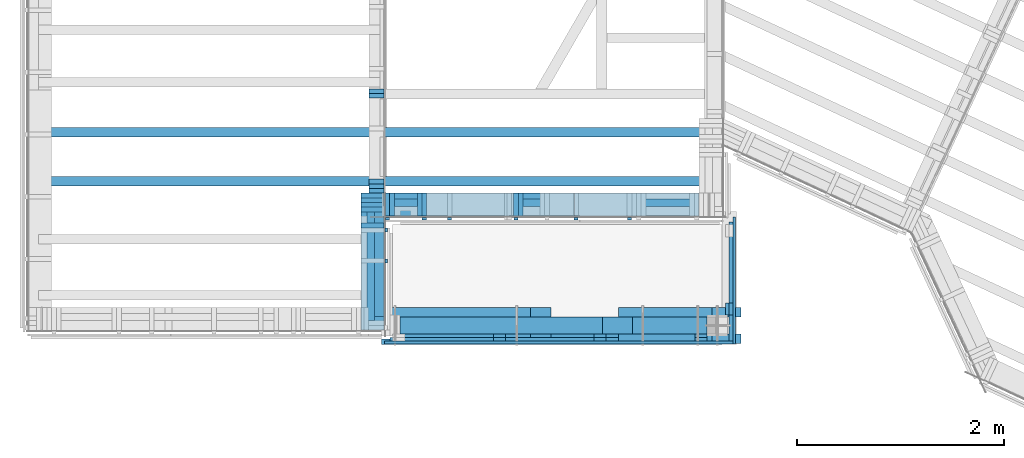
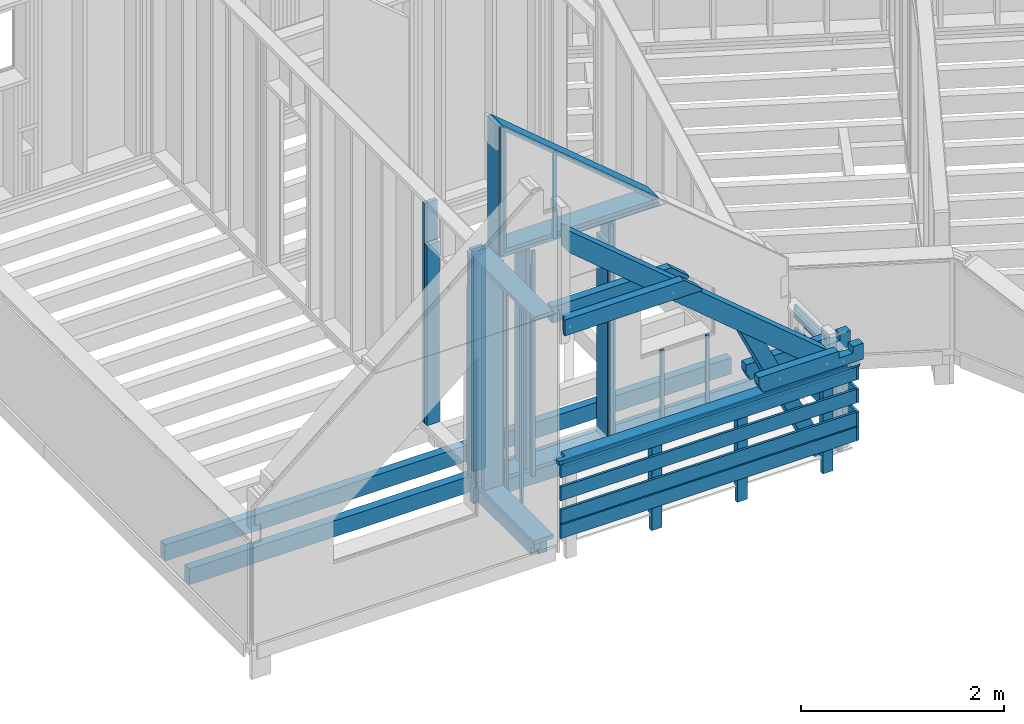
# One storey, part 4 of 24: 55 members, 2 beams.
"""IFC2X3 building model written with IfcOpenShell, lengths in metres."""

from ifc_helpers import new_model, si_unit, direction, frame, origin_with_axes, place, context, subcontext, project, spatial, faceted_brep, material, element, save


model = new_model("IFC2X3")

# Units and contexts
model_context = context("Model", 3, precision=1e-06, world=origin_with_axes(), true_north=direction((0.0, 1.0, 0.0)))
body_context = subcontext(model_context, "Body", "Model", "MODEL_VIEW")
ifc_project = project(units=[si_unit("LENGTHUNIT", "METRE"), si_unit("AREAUNIT", "SQUARE_METRE"), si_unit("VOLUMEUNIT", "CUBIC_METRE"), si_unit("PLANEANGLEUNIT", "RADIAN")], contexts=[model_context])

# Site, building, storey
site_placement = place(None, origin_with_axes())
site = spatial("IfcSite", under=ifc_project, at=site_placement, CompositionType="ELEMENT")
building_placement = place(site_placement, origin_with_axes())
building = spatial("IfcBuilding", under=site, at=building_placement, Name="Building 1", CompositionType="ELEMENT")
storey_placement = place(building_placement, origin_with_axes())
storey = spatial("IfcBuildingStorey", under=building, at=storey_placement, Name="Premier Etage", CompositionType="ELEMENT", Elevation=0.0)

# Members
ifc_material_1 = material(Name="NH II")
member_1_placement = place(storey_placement, frame((6.8155, -0.121, 3.0045), z_axis=(0.0, 0.0, 1.0), x_axis=(0.0, 1.0, 0.0)))
element("IfcMember", 1, at=member_1_placement, inside=storey, material=ifc_material_1, Name="Balustre horizontale", context=body_context, shape_type="Brep", body=[
    faceted_brep([(1.2258281, -0.0135, 0.0825), (0.0, -0.0135, 0.0825), (0.0, -0.0135, -0.0825), (1.2258281, -0.0135, -0.0825), (1.2258281, 0.0135, 0.0825), (0.0, 0.0135, 0.0825), (1.2258281, 0.0135, -0.0825), (0.0, 0.0135, -0.0825)], [[[0, 1, 2, 3]], [[4, 5, 1, 0]], [[6, 7, 5, 4]], [[3, 2, 7, 6]], [[3, 6, 4, 0]], [[7, 2, 1, 5]]]),
])
ifc_material_2 = material(Name="Epicéa C24")
member_2_placement = place(storey_placement, frame((5.2056087, 1.2228281, 5.6029713), z_axis=(0.0, -1.0, 0.0), x_axis=(-1.0, 0.0, 0.0)))
element("IfcMember", 2, at=member_2_placement, inside=storey, material=ifc_material_2, Name="Montant", context=body_context, shape_type="Brep", body=[
    faceted_brep([(0.0, -0.0225, -0.11), (0.0, -0.0225, 0.11), (0.0, 0.0225, 0.11), (0.0, 0.0225, -0.11), (1.7576088, -0.0225, 0.11), (1.7576088, 0.0225, 0.11), (1.7576088, -0.0225, -0.11), (1.7576088, 0.0225, -0.11)], [[[0, 1, 2, 3]], [[2, 1, 4, 5]], [[1, 0, 6, 4]], [[0, 3, 7, 6]], [[3, 2, 5, 7]], [[7, 5, 4, 6]]]),
])
member_3_placement = place(storey_placement, frame((3.4785373, 1.2228281, 7.104028), z_axis=(0.0, -1.0, 0.0), x_axis=(0.7660444, 0.0, -0.6427876)))
element("IfcMember", 3, at=member_3_placement, inside=storey, material=ifc_material_2, Name="Montant", context=body_context, shape_type="Brep", body=[
    faceted_brep([(0.0, 0.0225, -0.11), (0.0377595, -0.0225, -0.11), (0.0377595, -0.0225, 0.11), (0.0, 0.0225, 0.11), (2.2734114, -0.0225, -0.11), (2.2734114, -0.0225, 0.11), (2.3270404, 0.0225, -0.11), (2.3270404, 0.0225, 0.11)], [[[0, 1, 2, 3]], [[2, 1, 4, 5]], [[1, 0, 6, 4]], [[7, 5, 4, 6]], [[3, 2, 5, 7]], [[0, 3, 7, 6]]]),
])
member_4_placement = place(storey_placement, frame((5.8050389, 1.0878281, 3.813), z_axis=(0.0, 1.0, 0.0), x_axis=(0.0, 0.0, -1.0)))
element("IfcMember", 4, at=member_4_placement, inside=storey, material=ifc_material_2, Name="latte 27/40", context=body_context, shape_type="Brep", body=[
    faceted_brep([(1.003, 0.02, -0.012), (1.003, 0.02, 0.012), (1.003, -0.02, 0.012), (1.003, -0.02, -0.012), (0.0, 0.02, 0.012), (0.0, 0.02, -0.012), (0.0, -0.02, -0.012), (0.0, -0.02, 0.012)], [[[0, 1, 2, 3]], [[4, 5, 6, 7]], [[3, 6, 5, 0]], [[2, 7, 6, 3]], [[1, 4, 7, 2]], [[0, 5, 4, 1]]]),
])

# Beam
beam_1_placement = place(storey_placement, frame((5.0472814, 0.182, 5.4324058), z_axis=(0.0, 0.0, 1.0), x_axis=(-1.0, 0.0, 0.0)))
element("IfcBeam", 5, at=beam_1_placement, inside=storey, material=ifc_material_1, Name="Blochet", context=body_context, shape_type="Brep", body=[
    faceted_brep([(1.5532814, 0.046, -0.096), (1.5532814, 0.046, 0.096), (1.5532814, -0.046, 0.096), (1.5532814, -0.046, -0.096), (0.1988167, 0.046, 0.096), (0.1988167, -0.046, 0.096), (0.0, 0.046, -0.096), (0.0, 0.046, -0.070827), (0.0, -0.046, -0.096), (0.0, -0.046, -0.070827)], [[[0, 1, 2, 3]], [[2, 1, 4, 5]], [[1, 0, 6, 7, 4]], [[8, 9, 7, 6]], [[7, 9, 5, 4]], [[3, 2, 5, 9, 8]], [[0, 3, 8, 6]]]),
])

# Members
member_5_placement = place(storey_placement, frame((6.476, 1.2228281, 2.8725), z_axis=(0.0, -1.0, 0.0), x_axis=(-1.0, 0.0, 0.0)))
element("IfcMember", 6, at=member_5_placement, inside=storey, material=ifc_material_2, Name="Montant", context=body_context, shape_type="Brep", body=[
    faceted_brep([(3.028, 0.0225, 0.11), (0.0, 0.0225, 0.11), (0.0, -0.0225, 0.11), (3.028, -0.0225, 0.11), (0.0, -0.0225, -0.11), (3.028, -0.0225, -0.11), (0.0, 0.0225, -0.11), (3.028, 0.0225, -0.11)], [[[0, 1, 2, 3]], [[4, 5, 3, 2]], [[6, 4, 2, 1]], [[5, 7, 0, 3]], [[7, 5, 4, 6]], [[0, 7, 6, 1]]]),
])
member_6_placement = place(storey_placement, frame((6.4885307, 0.056, 2.7754038), z_axis=(0.9063078, 0.0, 0.4226183), x_axis=(-0.4226183, 0.0, 0.9063078)))
element("IfcMember", 7, at=member_6_placement, inside=storey, material=ifc_material_1, Name="Aisselier", context=body_context, shape_type="Brep", body=[
    faceted_brep([(0.0, 0.08, 0.0700306), (0.0, -0.08, 0.0700306), (0.0213794, -0.08, 0.08), (0.0213794, 0.08, 0.08), (0.0699604, -0.08, -0.08), (2.0609966, -0.08, -0.08), (1.7178755, -0.08, 0.08), (0.0699604, 0.08, -0.08), (1.7178755, 0.08, 0.08), (2.0609966, 0.08, -0.08)], [[[0, 1, 2, 3]], [[2, 1, 4, 5, 6]], [[1, 0, 7, 4]], [[8, 6, 5, 9]], [[3, 2, 6, 8]], [[0, 3, 8, 9, 7]], [[4, 7, 9, 5]]]),
])
member_7_placement = place(storey_placement, frame((5.2903666, 1.0878281, 3.813), z_axis=(0.0, 1.0, 0.0), x_axis=(0.0, 0.0, -1.0)))
element("IfcMember", 8, at=member_7_placement, inside=storey, material=ifc_material_2, Name="latte 27/40", context=body_context, shape_type="Brep", body=[
    faceted_brep([(1.003, 0.02, -0.012), (1.003, 0.02, 0.012), (1.003, -0.02, 0.012), (1.003, -0.02, -0.012), (0.0, 0.02, 0.012), (0.0, 0.02, -0.012), (0.0, -0.02, -0.012), (0.0, -0.02, 0.012)], [[[0, 1, 2, 3]], [[4, 5, 6, 7]], [[3, 6, 5, 0]], [[2, 7, 6, 3]], [[1, 4, 7, 2]], [[0, 5, 4, 1]]]),
])
for number, where, z_axis, x_axis, name in (
    (9, (3.8266497, 1.0878281, 5.5204713), (0.0, -1.0, 0.0), (0.0, 0.0, -1.0), "latte 27/40"),
    (10, (4.7116497, 1.0878281, 5.5204713), (0.0, -1.0, 0.0), (0.0, 0.0, -1.0), "latte 27/40"),
):
    element("IfcMember", number, at=place(storey_placement, frame(where, z_axis=z_axis, x_axis=x_axis)), inside=storey, material=ifc_material_2, Name=name, context=body_context, shape_type="Brep", body=[
        faceted_brep([(2.7104713, 0.02, -0.012), (2.7104713, 0.02, 0.012), (2.7104713, -0.02, 0.012), (2.7104713, -0.02, -0.012), (0.0, 0.02, 0.012), (0.0, 0.02, -0.012), (0.0, -0.02, -0.012), (0.0, -0.02, 0.012)], [[[0, 1, 2, 3]], [[4, 5, 6, 7]], [[3, 6, 5, 0]], [[2, 7, 6, 3]], [[1, 4, 7, 2]], [[0, 5, 4, 1]]]),
    ])
member_8_placement = place(storey_placement, frame((3.326, 1.3103281, 5.5354713), z_axis=(-1.0, 0.0, 0.0), x_axis=(0.0, 0.0, -1.0)))
element("IfcMember", 11, at=member_8_placement, inside=storey, material=ifc_material_2, Name="Montant", context=body_context, shape_type="Brep", body=[
    faceted_brep([(2.6404713, -0.0225, -0.11), (2.6404713, 0.0225, -0.11), (2.6404713, 0.0225, 0.11), (2.6404713, -0.0225, 0.11), (0.0, -0.0225, 0.11), (0.0, -0.0225, -0.11), (0.0, 0.0225, -0.11), (0.0, 0.0225, 0.11)], [[[0, 1, 2, 3]], [[0, 3, 4, 5]], [[1, 0, 5, 6]], [[2, 1, 6, 7]], [[3, 2, 7, 4]], [[4, 7, 6, 5]]]),
])
member_9_placement = place(storey_placement, frame((3.444, -0.1075, 3.7345), z_axis=(0.0, 0.0, 1.0), x_axis=(1.0, 0.0, 0.0)))
element("IfcMember", 12, at=member_9_placement, inside=storey, material=ifc_material_1, Name="Balustre horizontale", context=body_context, shape_type="Brep", body=[
    faceted_brep([(3.385, 0.0135, -0.0825), (0.0, 0.0135, -0.0825), (0.0, 0.0135, 0.0825), (3.385, 0.0135, 0.0825), (0.0, -0.0135, 0.0825), (3.385, -0.0135, 0.0825), (0.0, -0.0135, -0.0825), (3.385, -0.0135, -0.0825)], [[[0, 1, 2, 3]], [[3, 2, 4, 5]], [[5, 4, 6, 7]], [[7, 6, 1, 0]], [[7, 0, 3, 5]], [[1, 6, 4, 2]]]),
])
member_10_placement = place(storey_placement, frame((3.416, -0.059, 3.8395), z_axis=(0.0, -1.0, 0.0), x_axis=(1.0, 0.0, 0.0)))
element("IfcMember", 13, at=member_10_placement, inside=storey, material=ifc_material_1, Name="Main courante", context=body_context, shape_type="Brep", body=[
    faceted_brep([(0.0, 0.0225, 0.014), (0.0, -0.0225, 0.014), (0.0, -0.0225, 0.07), (0.0, 0.0225, 0.07), (3.421, -0.0225, 0.07), (3.421, 0.0, 0.07), (3.281, 0.0, 0.07), (3.281, 0.0225, 0.07), (0.105, -0.0225, 0.014), (0.105, -0.0225, -0.07), (3.421, -0.0225, -0.07), (0.105, 0.0225, 0.014), (0.105, 0.0225, -0.07), (3.281, 0.0225, -0.07), (3.281, 0.0, -0.07), (3.421, 0.0, -0.07)], [[[0, 1, 2, 3]], [[3, 2, 4, 5, 6, 7]], [[2, 1, 8, 9, 10, 4]], [[9, 8, 11, 12]], [[9, 12, 13, 14, 15, 10]], [[0, 11, 8, 1]], [[0, 3, 7, 13, 12, 11]], [[15, 5, 4, 10]], [[6, 14, 13, 7]], [[15, 14, 6, 5]]]),
])
member_11_placement = place(storey_placement, frame((6.604, 1.2398281, 2.709), z_axis=(0.0, 0.0, -1.0), x_axis=(-1.0, 0.0, 0.0)))
element("IfcMember", 14, at=member_11_placement, inside=storey, material=ifc_material_1, Name="Ceinture", context=body_context, shape_type="Brep", body=[
    faceted_brep([(0.07, 0.035, 0.096), (0.07, 0.035, 0.0), (0.07, -0.035, 0.0), (0.07, -0.035, 0.096), (0.0, 0.035, 0.0), (0.0, -0.035, 0.0), (3.388, -0.035, 0.096), (3.388, 0.035, 0.096), (3.388, 0.035, -0.096), (0.0, 0.035, -0.096), (0.0, -0.035, -0.096), (3.388, -0.035, -0.096)], [[[0, 1, 2, 3]], [[2, 1, 4, 5]], [[0, 3, 6, 7]], [[8, 9, 4, 1, 0, 7]], [[5, 4, 9, 10]], [[6, 11, 8, 7]], [[11, 10, 9, 8]], [[2, 5, 10, 11, 6, 3]]]),
])
member_12_placement = place(storey_placement, frame((3.326, 0.012, 5.5579713), z_axis=(-1.0, 0.0, 0.0), x_axis=(0.0, 1.0, 0.0)))
element("IfcMember", 15, at=member_12_placement, inside=storey, material=ifc_material_2, Name="Montant", context=body_context, shape_type="Brep", body=[
    faceted_brep([(1.3208281, -0.0225, -0.11), (0.0, -0.0225, -0.11), (0.0, 0.0225, -0.11), (1.3208281, 0.0225, -0.11), (1.3208281, 0.0225, 0.11), (1.3208281, -0.0225, 0.11), (0.0, -0.0225, 0.11), (0.0, 0.0225, 0.11)], [[[0, 1, 2, 3]], [[3, 4, 5, 0]], [[6, 1, 0, 5]], [[2, 7, 4, 3]], [[7, 6, 5, 4]], [[2, 1, 6, 7]]]),
])

# Beam
beam_2_placement = place(storey_placement, frame((5.0472814, -0.07, 5.4324058), z_axis=(0.0, 0.0, 1.0), x_axis=(-1.0, 0.0, 0.0)))
element("IfcBeam", 16, at=beam_2_placement, inside=storey, material=ifc_material_1, Name="Blochet", context=body_context, shape_type="Brep", body=[
    faceted_brep([(1.5532814, 0.003, 0.096), (1.5262814, 0.003, 0.096), (1.5262814, 0.003, -0.096), (1.5532814, 0.003, -0.096), (1.5262814, -0.046, -0.096), (0.0, -0.046, -0.096), (0.0, 0.046, -0.096), (1.5532814, 0.046, -0.096), (1.5262814, -0.046, 0.096), (0.1988167, -0.046, 0.096), (0.0, -0.046, -0.070827), (1.5532814, 0.046, 0.096), (0.1988167, 0.046, 0.096), (0.0, 0.046, -0.070827)], [[[0, 1, 2, 3]], [[3, 2, 4, 5, 6, 7]], [[4, 2, 1, 8]], [[4, 8, 9, 10, 5]], [[1, 0, 11, 12, 9, 8]], [[0, 3, 7, 11]], [[11, 7, 6, 13, 12]], [[5, 10, 13, 6]], [[13, 10, 9, 12]]]),
])

# Members
member_13_placement = place(storey_placement, frame((3.4705, 1.0878281, 5.5204713), z_axis=(0.0, 1.0, 0.0), x_axis=(0.0, 0.0, -1.0)))
element("IfcMember", 17, at=member_13_placement, inside=storey, material=ifc_material_2, Name="latte 27/40", context=body_context, shape_type="Brep", body=[
    faceted_brep([(2.7104713, 0.02, -0.012), (2.7104713, 0.02, 0.012), (2.7104713, -0.02, 0.012), (2.7104713, -0.02, -0.012), (0.0, 0.02, 0.012), (0.0, 0.02, -0.012), (0.0, -0.02, -0.012), (0.0, -0.02, 0.012)], [[[0, 1, 2, 3]], [[4, 5, 6, 7]], [[3, 6, 5, 0]], [[2, 7, 6, 3]], [[1, 4, 7, 2]], [[0, 5, 4, 1]]]),
])
ifc_material_3 = material(Name="Sapin")
member_14_placement = place(storey_placement, frame((5.5221666, -0.059, 2.635), z_axis=(0.0, -1.0, 0.0), x_axis=(0.0, 0.0, 1.0)))
element("IfcMember", 18, at=member_14_placement, inside=storey, material=ifc_material_3, Name="poteau de balcon", context=body_context, shape_type="Brep", body=[
    faceted_brep([(1.112, -0.0585, 0.0), (1.182, -0.0585, 0.0), (1.182, 0.0585, 0.0), (1.112, 0.0585, 0.0), (1.182, -0.0585, -0.035), (1.182, 0.0585, -0.035), (0.191, 0.0585, -0.035), (0.191, 0.0585, -0.015), (0.0, 0.0585, -0.015), (0.0, 0.0585, 0.035), (1.112, 0.0585, 0.035), (0.191, -0.0585, -0.035), (1.112, -0.0585, 0.035), (0.0, -0.0585, 0.035), (0.0, -0.0585, -0.015), (0.191, -0.0585, -0.015)], [[[0, 1, 2, 3]], [[2, 1, 4, 5]], [[3, 2, 5, 6, 7, 8, 9, 10]], [[4, 11, 6, 5]], [[1, 0, 12, 13, 14, 15, 11, 4]], [[13, 12, 10, 9]], [[10, 12, 0, 3]], [[9, 8, 14, 13]], [[6, 11, 15, 7]], [[7, 15, 14, 8]]]),
])
member_15_placement = place(storey_placement, frame((6.8155, -0.121, 3.4595), z_axis=(0.0, 0.0, 1.0), x_axis=(0.0, 1.0, 0.0)))
element("IfcMember", 19, at=member_15_placement, inside=storey, material=ifc_material_1, Name="Balustre horizontale", context=body_context, shape_type="Brep", body=[
    faceted_brep([(1.2258281, -0.0135, 0.0825), (0.0, -0.0135, 0.0825), (0.0, -0.0135, -0.0825), (1.2258281, -0.0135, -0.0825), (1.2258281, 0.0135, 0.0825), (0.0, 0.0135, 0.0825), (1.2258281, 0.0135, -0.0825), (0.0, 0.0135, -0.0825)], [[[0, 1, 2, 3]], [[4, 5, 1, 0]], [[6, 7, 5, 4]], [[3, 2, 7, 6]], [[3, 6, 4, 0]], [[7, 2, 1, 5]]]),
])
member_16_placement = place(storey_placement, frame((4.7566497, 1.2228281, 5.5354713), z_axis=(0.0, -1.0, 0.0), x_axis=(0.0, 0.0, -1.0)))
element("IfcMember", 20, at=member_16_placement, inside=storey, material=ifc_material_2, Name="Montant", context=body_context, shape_type="Brep", body=[
    faceted_brep([(2.6404713, -0.0225, -0.11), (2.6404713, 0.0225, -0.11), (2.6404713, 0.0225, 0.11), (2.6404713, -0.0225, 0.11), (0.0, -0.0225, 0.11), (0.0, -0.0225, -0.11), (0.0, 0.0225, -0.11), (0.0, 0.0225, 0.11)], [[[0, 1, 2, 3]], [[0, 3, 4, 5]], [[1, 0, 5, 6]], [[2, 1, 6, 7]], [[3, 2, 7, 4]], [[4, 7, 6, 5]]]),
])
member_17_placement = place(storey_placement, frame((6.883, -0.07, 3.968), z_axis=(0.0, 0.0, 1.0), x_axis=(-1.0, 0.0, 0.0)))
element("IfcMember", 21, at=member_17_placement, inside=storey, material=ifc_material_1, Name="Blochets", context=body_context, shape_type="Brep", body=[
    faceted_brep([(0.28, 0.046, 0.096), (0.28, 0.046, 0.0148151), (0.28, -0.046, 0.0148151), (0.28, -0.046, 0.096), (0.12, 0.046, 0.0148151), (0.12, -0.046, 0.0148151), (0.12, 0.046, 0.096), (0.12, -0.046, 0.096), (1.1851183, 0.046, 0.096), (1.1851183, 0.046, 0.0), (1.1403527, 0.046, -0.096), (0.0, 0.046, -0.096), (0.0, 0.046, 0.096), (1.1851183, -0.046, 0.096), (1.1403527, -0.046, -0.096), (1.1851183, -0.046, 0.0), (0.0, -0.046, -0.096), (0.0, -0.046, 0.096)], [[[0, 1, 2, 3]], [[1, 4, 5, 2]], [[4, 6, 7, 5]], [[6, 4, 1, 0, 8, 9, 10, 11, 12]], [[0, 3, 13, 8]], [[14, 10, 9, 15]], [[10, 14, 16, 11]], [[15, 9, 8, 13]], [[12, 11, 16, 17]], [[5, 7, 17, 16, 14, 15, 13, 3, 2]], [[7, 6, 12, 17]]]),
])
member_18_placement = place(storey_placement, frame((3.7816497, 1.2228281, 5.5354713), z_axis=(0.0, -1.0, 0.0), x_axis=(0.0, 0.0, -1.0)))
element("IfcMember", 22, at=member_18_placement, inside=storey, material=ifc_material_2, Name="Montant", context=body_context, shape_type="Brep", body=[
    faceted_brep([(2.6404713, -0.0225, -0.11), (2.6404713, 0.0225, -0.11), (2.6404713, 0.0225, 0.11), (2.6404713, -0.0225, 0.11), (0.0, -0.0225, 0.11), (0.0, -0.0225, -0.11), (0.0, 0.0225, -0.11), (0.0, 0.0225, 0.11)], [[[0, 1, 2, 3]], [[0, 3, 4, 5]], [[1, 0, 5, 6]], [[2, 1, 6, 7]], [[3, 2, 7, 4]], [[4, 7, 6, 5]]]),
])
member_19_placement = place(storey_placement, frame((0.104, 1.4478281, 2.709), z_axis=(0.0, 0.0, -1.0), x_axis=(1.0, 0.0, 0.0)))
element("IfcMember", 23, at=member_19_placement, inside=storey, material=ifc_material_1, Name="Solive", context=body_context, shape_type="Brep", body=[
    faceted_brep([(6.43, -0.046, 0.096), (6.43, -0.046, -0.096), (6.43, 0.046, -0.096), (6.43, 0.046, 0.096), (0.0, -0.046, -0.096), (0.0, -0.046, 0.096), (0.0, 0.046, 0.096), (0.0, 0.046, -0.096)], [[[0, 1, 2, 3]], [[4, 5, 6, 7]], [[3, 6, 5, 0]], [[2, 7, 6, 3]], [[1, 4, 7, 2]], [[0, 5, 4, 1]]]),
])
member_20_placement = place(storey_placement, frame((3.5155, 1.2228281, 7.0625207), z_axis=(0.0, 1.0, 0.0), x_axis=(0.0, 0.0, -1.0)))
element("IfcMember", 24, at=member_20_placement, inside=storey, material=ifc_material_2, Name="Montant", context=body_context, shape_type="Brep", body=[
    faceted_brep([(0.0377595, -0.0225, -0.11), (0.0377595, -0.0225, 0.11), (0.0, 0.0225, 0.11), (0.0, 0.0225, -0.11), (1.4370494, -0.0225, 0.11), (1.4370494, 0.0225, 0.11), (1.4370494, -0.0225, -0.11), (1.4370494, 0.0225, -0.11)], [[[0, 1, 2, 3]], [[2, 1, 4, 5]], [[1, 0, 6, 4]], [[3, 2, 5, 7]], [[0, 3, 7, 6]], [[6, 7, 5, 4]]]),
])
for number, where, z_axis, x_axis, name in (
    (25, (4.5508333, -0.059, 2.635), (0.0, -1.0, 0.0), (0.0, 0.0, 1.0), "poteau de balcon"),
    (26, (6.4935, -0.059, 2.635), (0.0, -1.0, 0.0), (0.0, 0.0, 1.0), "poteau de balcon"),
):
    element("IfcMember", number, at=place(storey_placement, frame(where, z_axis=z_axis, x_axis=x_axis)), inside=storey, material=ifc_material_3, Name=name, context=body_context, shape_type="Brep", body=[
        faceted_brep([(1.112, -0.0585, 0.0), (1.182, -0.0585, 0.0), (1.182, 0.0585, 0.0), (1.112, 0.0585, 0.0), (1.182, -0.0585, -0.035), (1.182, 0.0585, -0.035), (0.191, 0.0585, -0.035), (0.191, 0.0585, -0.015), (0.0, 0.0585, -0.015), (0.0, 0.0585, 0.035), (1.112, 0.0585, 0.035), (0.191, -0.0585, -0.035), (1.112, -0.0585, 0.035), (0.0, -0.0585, 0.035), (0.0, -0.0585, -0.015), (0.191, -0.0585, -0.015)], [[[0, 1, 2, 3]], [[2, 1, 4, 5]], [[3, 2, 5, 6, 7, 8, 9, 10]], [[4, 11, 6, 5]], [[1, 0, 12, 13, 14, 15, 11, 4]], [[13, 12, 10, 9]], [[10, 12, 0, 3]], [[9, 8, 14, 13]], [[6, 11, 15, 7]], [[7, 15, 14, 8]]]),
    ])
member_21_placement = place(storey_placement, frame((3.8266497, 1.2228281, 5.286), z_axis=(0.0, -1.0, 0.0), x_axis=(0.0, 0.0, -1.0)))
element("IfcMember", 27, at=member_21_placement, inside=storey, material=ifc_material_2, Name="Montant", context=body_context, shape_type="Brep", body=[
    faceted_brep([(2.391, -0.0225, -0.11), (2.391, 0.0225, -0.11), (2.391, 0.0225, 0.11), (2.391, -0.0225, 0.11), (0.0, -0.0225, 0.11), (0.0, -0.0225, -0.11), (0.0, 0.0225, -0.11), (0.0, 0.0225, 0.11)], [[[0, 1, 2, 3]], [[0, 3, 4, 5]], [[1, 0, 5, 6]], [[2, 1, 6, 7]], [[3, 2, 7, 4]], [[4, 7, 6, 5]]]),
])
member_22_placement = place(storey_placement, frame((0.104, 1.9200228, 2.709), z_axis=(0.0, 0.0, -1.0), x_axis=(1.0, 0.0, 0.0)))
element("IfcMember", 28, at=member_22_placement, inside=storey, material=ifc_material_1, Name="Solive", context=body_context, shape_type="Brep", body=[
    faceted_brep([(6.43, -0.046, 0.096), (6.43, -0.046, -0.096), (6.43, 0.046, -0.096), (6.43, 0.046, 0.096), (0.0, -0.046, -0.096), (0.0, -0.046, 0.096), (0.0, 0.046, 0.096), (0.0, 0.046, -0.096)], [[[0, 1, 2, 3]], [[4, 5, 6, 7]], [[3, 6, 5, 0]], [[2, 7, 6, 3]], [[1, 4, 7, 2]], [[0, 5, 4, 1]]]),
])
for number, where, z_axis, x_axis, name in (
    (29, (3.326, 1.0208281, 5.5354713), (-1.0, 0.0, 0.0), (0.0, 0.0, -1.0), "Montant"),
    (30, (3.326, 1.2653281, 5.5354713), (-1.0, 0.0, 0.0), (0.0, 0.0, -1.0), "Montant"),
):
    element("IfcMember", number, at=place(storey_placement, frame(where, z_axis=z_axis, x_axis=x_axis)), inside=storey, material=ifc_material_2, Name=name, context=body_context, shape_type="Brep", body=[
        faceted_brep([(2.6404713, -0.0225, -0.11), (2.6404713, 0.0225, -0.11), (2.6404713, 0.0225, 0.11), (2.6404713, -0.0225, 0.11), (0.0, -0.0225, 0.11), (0.0, -0.0225, -0.11), (0.0, 0.0225, -0.11), (0.0, 0.0225, 0.11)], [[[0, 1, 2, 3]], [[0, 3, 4, 5]], [[1, 0, 5, 6]], [[2, 1, 6, 7]], [[3, 2, 7, 4]], [[4, 7, 6, 5]]]),
    ])
member_23_placement = place(storey_placement, frame((3.461, 0.9758281, 5.5204713), z_axis=(-1.0, 0.0, 0.0), x_axis=(0.0, 0.0, -1.0)))
element("IfcMember", 31, at=member_23_placement, inside=storey, material=ifc_material_2, Name="latte 27/40", context=body_context, shape_type="Brep", body=[
    faceted_brep([(2.7104713, -0.02, -0.012), (2.7104713, 0.02, -0.012), (2.7104713, 0.02, 0.012), (2.7104713, -0.02, 0.012), (0.0, 0.02, 0.012), (0.0, -0.02, 0.012), (0.0, 0.02, -0.012), (0.0, -0.02, -0.012)], [[[0, 1, 2, 3]], [[3, 2, 4, 5]], [[2, 1, 6, 4]], [[1, 0, 7, 6]], [[6, 7, 5, 4]], [[0, 3, 5, 7]]]),
])
member_24_placement = place(storey_placement, frame((4.0705, 1.0878281, 6.619902), z_axis=(0.0, 1.0, 0.0), x_axis=(0.0, 0.0, -1.0)))
element("IfcMember", 32, at=member_24_placement, inside=storey, material=ifc_material_2, Name="latte 27/40", context=body_context, shape_type="Brep", body=[
    faceted_brep([(1.0344307, 0.02, -0.012), (1.0344307, 0.02, 0.012), (1.0344307, -0.02, 0.012), (1.0344307, -0.02, -0.012), (0.0, 0.02, 0.012), (0.0, 0.02, -0.012), (0.0, -0.02, -0.012), (0.0, -0.02, 0.012)], [[[0, 1, 2, 3]], [[4, 5, 6, 7]], [[3, 6, 5, 0]], [[2, 7, 6, 3]], [[1, 4, 7, 2]], [[0, 5, 4, 1]]]),
])
member_25_placement = place(storey_placement, frame((3.326, 1.1753281, 5.5354713), z_axis=(-1.0, 0.0, 0.0), x_axis=(0.0, 0.0, -1.0)))
element("IfcMember", 33, at=member_25_placement, inside=storey, material=ifc_material_2, Name="Montant", context=body_context, shape_type="Brep", body=[
    faceted_brep([(2.6404713, -0.0225, -0.11), (2.6404713, 0.0225, -0.11), (2.6404713, 0.0225, 0.11), (2.6404713, -0.0225, 0.11), (0.0, -0.0225, 0.11), (0.0, -0.0225, -0.11), (0.0, 0.0225, -0.11), (0.0, 0.0225, 0.11)], [[[0, 1, 2, 3]], [[0, 3, 4, 5]], [[1, 0, 5, 6]], [[2, 1, 6, 7]], [[3, 2, 7, 4]], [[4, 7, 6, 5]]]),
])
member_26_placement = place(storey_placement, frame((3.326, 0.012, 2.8725), z_axis=(-1.0, 0.0, 0.0), x_axis=(0.0, 1.0, 0.0)))
element("IfcMember", 34, at=member_26_placement, inside=storey, material=ifc_material_2, Name="Montant", context=body_context, shape_type="Brep", body=[
    faceted_brep([(1.3208281, -0.0225, -0.11), (0.0, -0.0225, -0.11), (0.0, 0.0225, -0.11), (1.3208281, 0.0225, -0.11), (1.3208281, 0.0225, 0.11), (1.3208281, -0.0225, 0.11), (0.0, -0.0225, 0.11), (0.0, 0.0225, 0.11)], [[[0, 1, 2, 3]], [[3, 4, 5, 0]], [[6, 1, 0, 5]], [[2, 7, 4, 3]], [[7, 6, 5, 4]], [[2, 1, 6, 7]]]),
])
member_27_placement = place(storey_placement, frame((3.461, 0.6795, 5.5204713), z_axis=(1.0, 0.0, 0.0), x_axis=(0.0, 0.0, -1.0)))
element("IfcMember", 35, at=member_27_placement, inside=storey, material=ifc_material_2, Name="latte 27/40", context=body_context, shape_type="Brep", body=[
    faceted_brep([(2.7104713, 0.02, 0.012), (2.7104713, -0.02, 0.012), (2.7104713, -0.02, -0.012), (2.7104713, 0.02, -0.012), (0.0, -0.02, -0.012), (0.0, 0.02, -0.012), (0.0, -0.02, 0.012), (0.0, 0.02, 0.012)], [[[0, 1, 2, 3]], [[3, 2, 4, 5]], [[2, 1, 6, 4]], [[1, 0, 7, 6]], [[0, 3, 5, 7]], [[6, 7, 5, 4]]]),
])
member_28_placement = place(storey_placement, frame((6.8155, -0.121, 3.1845), z_axis=(0.0, 0.0, 1.0), x_axis=(0.0, 1.0, 0.0)))
element("IfcMember", 36, at=member_28_placement, inside=storey, material=ifc_material_1, Name="Balustre horizontale", context=body_context, shape_type="Brep", body=[
    faceted_brep([(1.2258281, -0.0135, 0.0825), (0.0, -0.0135, 0.0825), (0.0, -0.0135, -0.0825), (1.2258281, -0.0135, -0.0825), (1.2258281, 0.0135, 0.0825), (0.0, 0.0135, 0.0825), (1.2258281, 0.0135, -0.0825), (0.0, 0.0135, -0.0825)], [[[0, 1, 2, 3]], [[4, 5, 1, 0]], [[6, 7, 5, 4]], [[3, 2, 7, 6]], [[3, 6, 4, 0]], [[7, 2, 1, 5]]]),
])
member_29_placement = place(storey_placement, frame((3.309, 0.104, 2.709), z_axis=(0.0, 0.0, -1.0), x_axis=(0.0, 1.0, 0.0)))
element("IfcMember", 37, at=member_29_placement, inside=storey, material=ifc_material_1, Name="Ceinture", context=body_context, shape_type="Brep", body=[
    faceted_brep([(0.07, -0.035, 0.0), (0.07, 0.035, 0.0), (0.0, 0.035, 0.0), (0.0, -0.035, 0.0), (0.07, -0.035, 0.096), (0.07, 0.035, 0.096), (0.0, 0.035, -0.096), (0.0, -0.035, -0.096), (1.1008281, 0.035, 0.096), (1.1008281, 0.035, -0.096), (1.1008281, -0.035, 0.096), (1.1008281, -0.035, -0.096)], [[[0, 1, 2, 3]], [[0, 4, 5, 1]], [[3, 2, 6, 7]], [[2, 1, 5, 8, 9, 6]], [[9, 8, 10, 11]], [[5, 4, 10, 8]], [[4, 0, 3, 7, 11, 10]], [[6, 9, 11, 7]]]),
])
member_30_placement = place(storey_placement, frame((3.3635, 1.3553281, 5.5354713), z_axis=(1.0, 0.0, 0.0), x_axis=(0.0, 0.0, -1.0)))
element("IfcMember", 38, at=member_30_placement, inside=storey, material=ifc_material_2, Name="Montant", context=body_context, shape_type="Brep", body=[
    faceted_brep([(2.6404713, -0.0225, -0.0725), (2.6404713, 0.0225, -0.0725), (2.6404713, 0.0225, 0.0725), (2.6404713, -0.0225, 0.0725), (0.0, -0.0225, 0.0725), (0.0, -0.0225, -0.0725), (0.0, 0.0225, -0.0725), (0.0, 0.0225, 0.0725)], [[[0, 1, 2, 3]], [[0, 3, 4, 5]], [[1, 0, 5, 6]], [[2, 1, 6, 7]], [[3, 2, 7, 4]], [[4, 7, 6, 5]]]),
])
for number, where, z_axis, x_axis, name in (
    (39, (3.444, -0.1075, 3.0045), (0.0, 0.0, 1.0), (1.0, 0.0, 0.0), "Balustre horizontale"),
    (40, (3.444, -0.1075, 3.1845), (0.0, 0.0, 1.0), (1.0, 0.0, 0.0), "Balustre horizontale"),
    (41, (3.444, -0.1075, 3.4595), (0.0, 0.0, 1.0), (1.0, 0.0, 0.0), "Balustre horizontale"),
):
    element("IfcMember", number, at=place(storey_placement, frame(where, z_axis=z_axis, x_axis=x_axis)), inside=storey, material=ifc_material_1, Name=name, context=body_context, shape_type="Brep", body=[
        faceted_brep([(3.385, 0.0135, -0.0825), (0.0, 0.0135, -0.0825), (0.0, 0.0135, 0.0825), (3.385, 0.0135, 0.0825), (0.0, -0.0135, 0.0825), (3.385, -0.0135, 0.0825), (0.0, -0.0135, -0.0825), (3.385, -0.0135, -0.0825)], [[[0, 1, 2, 3]], [[3, 2, 4, 5]], [[5, 4, 6, 7]], [[7, 6, 1, 0]], [[7, 0, 3, 5]], [[1, 6, 4, 2]]]),
    ])
member_31_placement = place(storey_placement, frame((3.4705, 1.2228281, 7.121264), z_axis=(0.0, 1.0, 0.0), x_axis=(0.0, 0.0, -1.0)))
element("IfcMember", 42, at=member_31_placement, inside=storey, material=ifc_material_2, Name="Montant", context=body_context, shape_type="Brep", body=[
    faceted_brep([(0.0, 0.0225, -0.11), (0.0, -0.0225, -0.11), (0.0, -0.0225, 0.11), (0.0, 0.0225, 0.11), (1.4957927, -0.0225, -0.11), (1.4957927, -0.0225, 0.11), (1.4957927, 0.0225, -0.11), (1.4957927, 0.0225, 0.11)], [[[0, 1, 2, 3]], [[2, 1, 4, 5]], [[1, 0, 6, 4]], [[0, 3, 7, 6]], [[3, 2, 5, 7]], [[4, 6, 7, 5]]]),
])
member_32_placement = place(storey_placement, frame((3.494, -0.0765, 3.782), z_axis=(0.0, 0.0, 1.0), x_axis=(1.0, 0.0, 0.0)))
element("IfcMember", 43, at=member_32_placement, inside=storey, material=ifc_material_1, Name="lisse 45x70", context=body_context, shape_type="Brep", body=[
    faceted_brep([(3.273, -0.0175, 0.035), (3.273, 0.0175, 0.035), (0.0, 0.0175, 0.035), (0.0, -0.0175, 0.035), (3.273, 0.0175, 0.0), (3.308, 0.0175, 0.0), (3.308, 0.0175, -0.035), (0.0, 0.0175, -0.035), (3.308, -0.0175, 0.0), (3.308, -0.0175, -0.035), (3.273, -0.0175, 0.0), (0.0, -0.0175, -0.035)], [[[0, 1, 2, 3]], [[4, 5, 6, 7, 2, 1]], [[5, 8, 9, 6]], [[8, 10, 0, 3, 11, 9]], [[10, 4, 1, 0]], [[4, 10, 8, 5]], [[7, 6, 9, 11]], [[2, 7, 11, 3]]]),
])
member_33_placement = place(storey_placement, frame((5.2756163, 1.2228281, 5.5579713), z_axis=(0.0, -1.0, 0.0), x_axis=(-1.0, 0.0, 0.0)))
element("IfcMember", 44, at=member_33_placement, inside=storey, material=ifc_material_2, Name="Montant", context=body_context, shape_type="Brep", body=[
    faceted_brep([(0.0, -0.0225, -0.11), (0.0, -0.0225, 0.11), (0.0, 0.0225, 0.11), (0.0, 0.0225, -0.11), (1.8276163, -0.0225, 0.11), (1.8276163, 0.0225, 0.11), (1.8276163, -0.0225, -0.11), (1.8276163, 0.0225, -0.11)], [[[0, 1, 2, 3]], [[2, 1, 4, 5]], [[1, 0, 6, 4]], [[0, 3, 7, 6]], [[3, 2, 5, 7]], [[5, 4, 6, 7]]]),
])
member_34_placement = place(storey_placement, frame((3.4705, 1.0878281, 7.1233618), z_axis=(0.0, 1.0, 0.0), x_axis=(0.0, 0.0, -1.0)))
element("IfcMember", 45, at=member_34_placement, inside=storey, material=ifc_material_2, Name="latte 27/40", context=body_context, shape_type="Brep", body=[
    faceted_brep([(1.5378905, 0.02, -0.012), (1.5378905, 0.02, 0.012), (1.5378905, -0.02, 0.012), (1.5378905, -0.02, -0.012), (0.0, 0.02, 0.012), (0.0, 0.02, -0.012), (0.0, -0.02, -0.012), (0.0, -0.02, 0.012)], [[[0, 1, 2, 3]], [[4, 5, 6, 7]], [[3, 6, 5, 0]], [[2, 7, 6, 3]], [[1, 4, 7, 2]], [[0, 5, 4, 1]]]),
])
member_35_placement = place(storey_placement, frame((3.326, 1.2203281, 5.5354713), z_axis=(-1.0, 0.0, 0.0), x_axis=(0.0, 0.0, -1.0)))
element("IfcMember", 46, at=member_35_placement, inside=storey, material=ifc_material_2, Name="Montant", context=body_context, shape_type="Brep", body=[
    faceted_brep([(2.6404713, -0.0225, -0.11), (2.6404713, 0.0225, -0.11), (2.6404713, 0.0225, 0.11), (2.6404713, -0.0225, 0.11), (0.0, -0.0225, 0.11), (0.0, -0.0225, -0.11), (0.0, 0.0225, -0.11), (0.0, 0.0225, 0.11)], [[[0, 1, 2, 3]], [[0, 3, 4, 5]], [[1, 0, 5, 6]], [[2, 1, 6, 7]], [[3, 2, 7, 4]], [[4, 7, 6, 5]]]),
])
member_36_placement = place(storey_placement, frame((3.3635, 1.4003281, 5.5354713), z_axis=(1.0, 0.0, 0.0), x_axis=(0.0, 0.0, -1.0)))
element("IfcMember", 47, at=member_36_placement, inside=storey, material=ifc_material_2, Name="Montant", context=body_context, shape_type="Brep", body=[
    faceted_brep([(2.6404713, -0.0225, -0.0725), (2.6404713, 0.0225, -0.0725), (2.6404713, 0.0225, 0.0725), (2.6404713, -0.0225, 0.0725), (0.0, -0.0225, 0.0725), (0.0, -0.0225, -0.0725), (0.0, 0.0225, -0.0725), (0.0, 0.0225, 0.0725)], [[[0, 1, 2, 3]], [[0, 3, 4, 5]], [[1, 0, 5, 6]], [[2, 1, 6, 7]], [[3, 2, 7, 4]], [[4, 7, 6, 5]]]),
])
member_37_placement = place(storey_placement, frame((6.883, 0.182, 3.968), z_axis=(0.0, 0.0, 1.0), x_axis=(-1.0, 0.0, 0.0)))
element("IfcMember", 48, at=member_37_placement, inside=storey, material=ifc_material_1, Name="Blochets", context=body_context, shape_type="Brep", body=[
    faceted_brep([(0.28, 0.046, 0.096), (0.28, 0.046, 0.0148151), (0.28, -0.046, 0.0148151), (0.28, -0.046, 0.096), (0.12, 0.046, 0.0148151), (0.12, -0.046, 0.0148151), (0.12, 0.046, 0.096), (0.12, -0.046, 0.096), (1.1851183, 0.046, 0.096), (1.1851183, 0.046, 0.0), (1.1403527, 0.046, -0.096), (0.0, 0.046, -0.096), (0.0, 0.046, 0.096), (1.1851183, -0.046, 0.096), (1.1403527, -0.046, -0.096), (1.1851183, -0.046, 0.0), (0.0, -0.046, -0.096), (0.0, -0.046, 0.096)], [[[0, 1, 2, 3]], [[1, 4, 5, 2]], [[4, 6, 7, 5]], [[6, 4, 1, 0, 8, 9, 10, 11, 12]], [[0, 3, 13, 8]], [[14, 10, 9, 15]], [[10, 14, 16, 11]], [[15, 9, 8, 13]], [[12, 11, 16, 17]], [[5, 7, 17, 16, 14, 15, 13, 3, 2]], [[7, 6, 12, 17]]]),
])
member_38_placement = place(storey_placement, frame((6.6162787, 0.056, 3.8411322), z_axis=(0.6427876, 0.0, 0.7660444), x_axis=(-0.7660444, 0.0, 0.6427876)))
element("IfcMember", 49, at=member_38_placement, inside=storey, material=ifc_material_1, Name="Arbalétrier", context=body_context, shape_type="Brep", body=[
    faceted_brep([(4.0292147, 0.08, 0.1), (4.0292147, -0.08, 0.1), (3.8613948, -0.08, -0.1), (3.8613948, 0.08, -0.1), (0.1678199, -0.08, 0.1), (0.0, -0.08, -0.1), (0.1678199, 0.08, 0.1), (0.0, 0.08, -0.1)], [[[0, 1, 2, 3]], [[2, 1, 4, 5]], [[1, 0, 6, 4]], [[5, 4, 6, 7]], [[3, 2, 5, 7]], [[0, 3, 7, 6]]]),
])
member_39_placement = place(storey_placement, frame((6.7845, -0.094, 3.782), z_axis=(0.0, 0.0, 1.0), x_axis=(0.0, 1.0, 0.0)))
element("IfcMember", 50, at=member_39_placement, inside=storey, material=ifc_material_1, Name="lisse 45x70", context=body_context, shape_type="Brep", body=[
    faceted_brep([(0.035, -0.0175, -0.035), (0.035, 0.0175, -0.035), (1.1488281, 0.0175, -0.035), (1.1488281, -0.0175, -0.035), (0.0, 0.0175, 0.0), (0.0, -0.0175, 0.0), (0.0, -0.0175, 0.035), (0.0, 0.0175, 0.035), (0.035, -0.0175, 0.0), (1.1488281, -0.0175, 0.035), (0.035, 0.0175, 0.0), (1.1488281, 0.0175, 0.035)], [[[0, 1, 2, 3]], [[4, 5, 6, 7]], [[8, 0, 3, 9, 6, 5]], [[1, 10, 4, 7, 11, 2]], [[8, 10, 1, 0]], [[4, 10, 8, 5]], [[11, 7, 6, 9]], [[2, 11, 9, 3]]]),
])
member_40_placement = place(storey_placement, frame((3.39, 1.2048281, 2.709), z_axis=(0.0, 0.0, -1.0), x_axis=(0.0, -1.0, 0.0)))
element("IfcMember", 51, at=member_40_placement, inside=storey, material=ifc_material_1, Name="Ceinture", context=body_context, shape_type="Brep", body=[
    faceted_brep([(0.092, -0.046, 0.0), (0.092, 0.046, 0.0), (0.0, 0.046, 0.0), (0.0, -0.046, 0.0), (0.092, -0.046, 0.096), (0.092, 0.046, 0.096), (1.0638281, 0.046, 0.096), (1.0638281, 0.046, -0.096), (0.0, 0.046, -0.096), (0.0, -0.046, -0.096), (1.0638281, -0.046, 0.096), (1.0638281, -0.046, -0.096)], [[[0, 1, 2, 3]], [[0, 4, 5, 1]], [[2, 1, 5, 6, 7, 8]], [[3, 2, 8, 9]], [[5, 4, 10, 6]], [[10, 11, 7, 6]], [[9, 8, 7, 11]], [[4, 0, 3, 9, 11, 10]]]),
])
member_41_placement = place(storey_placement, frame((4.7116497, 1.2228281, 5.286), z_axis=(0.0, -1.0, 0.0), x_axis=(0.0, 0.0, -1.0)))
element("IfcMember", 52, at=member_41_placement, inside=storey, material=ifc_material_2, Name="Montant", context=body_context, shape_type="Brep", body=[
    faceted_brep([(2.391, -0.0225, -0.11), (2.391, 0.0225, -0.11), (2.391, 0.0225, 0.11), (2.391, -0.0225, 0.11), (0.0, -0.0225, 0.11), (0.0, -0.0225, -0.11), (0.0, 0.0225, -0.11), (0.0, 0.0225, 0.11)], [[[0, 1, 2, 3]], [[0, 3, 4, 5]], [[1, 0, 5, 6]], [[2, 1, 6, 7]], [[3, 2, 7, 4]], [[4, 7, 6, 5]]]),
])
member_42_placement = place(storey_placement, frame((6.767, 0.2145, 2.635), z_axis=(1.0, 0.0, 0.0), x_axis=(0.0, 0.0, 1.0)))
element("IfcMember", 53, at=member_42_placement, inside=storey, material=ifc_material_3, Name="poteau de balcon", context=body_context, shape_type="Brep", body=[
    faceted_brep([(1.112, -0.0585, 0.0), (1.182, -0.0585, 0.0), (1.182, 0.0585, 0.0), (1.112, 0.0585, 0.0), (1.182, -0.0585, -0.035), (1.182, 0.0585, -0.035), (0.191, 0.0585, -0.035), (0.191, 0.0585, -0.015), (0.0, 0.0585, -0.015), (0.0, 0.0585, 0.035), (1.112, 0.0585, 0.035), (0.191, -0.0585, -0.035), (1.112, -0.0585, 0.035), (0.0, -0.0585, 0.035), (0.0, -0.0585, -0.015), (0.191, -0.0585, -0.015)], [[[0, 1, 2, 3]], [[2, 1, 4, 5]], [[3, 2, 5, 6, 7, 8, 9, 10]], [[4, 11, 6, 5]], [[1, 0, 12, 13, 14, 15, 11, 4]], [[13, 12, 10, 9]], [[10, 12, 0, 3]], [[9, 8, 14, 13]], [[6, 11, 15, 7]], [[7, 15, 14, 8]]]),
])
member_43_placement = place(storey_placement, frame((3.3635, 2.3153281, 5.5354713), z_axis=(1.0, 0.0, 0.0), x_axis=(0.0, 0.0, -1.0)))
element("IfcMember", 54, at=member_43_placement, inside=storey, material=ifc_material_2, Name="Montant", context=body_context, shape_type="Brep", body=[
    faceted_brep([(2.6404713, -0.0225, -0.0725), (2.6404713, 0.0225, -0.0725), (2.6404713, 0.0225, 0.0725), (2.6404713, -0.0225, 0.0725), (0.0, -0.0225, 0.0725), (0.0, -0.0225, -0.0725), (0.0, 0.0225, -0.0725), (0.0, 0.0225, 0.0725)], [[[0, 1, 2, 3]], [[0, 3, 4, 5]], [[1, 0, 5, 6]], [[2, 1, 6, 7]], [[3, 2, 7, 4]], [[4, 7, 6, 5]]]),
])
member_44_placement = place(storey_placement, frame((3.3635, 2.2703281, 5.061), z_axis=(1.0, 0.0, 0.0), x_axis=(0.0, 0.0, -1.0)))
element("IfcMember", 55, at=member_44_placement, inside=storey, material=ifc_material_2, Name="Montant", context=body_context, shape_type="Brep", body=[
    faceted_brep([(2.166, -0.0225, -0.0725), (2.166, 0.0225, -0.0725), (2.166, 0.0225, 0.0725), (2.166, -0.0225, 0.0725), (0.0, -0.0225, 0.0725), (0.0, -0.0225, -0.0725), (0.0, 0.0225, -0.0725), (0.0, 0.0225, 0.0725)], [[[0, 1, 2, 3]], [[0, 3, 4, 5]], [[1, 0, 5, 6]], [[2, 1, 6, 7]], [[3, 2, 7, 4]], [[4, 7, 6, 5]]]),
])
member_45_placement = place(storey_placement, frame((6.8155, -0.121, 3.7345), z_axis=(0.0, 0.0, 1.0), x_axis=(0.0, 1.0, 0.0)))
element("IfcMember", 56, at=member_45_placement, inside=storey, material=ifc_material_1, Name="Balustre horizontale", context=body_context, shape_type="Brep", body=[
    faceted_brep([(1.2258281, -0.0135, 0.0825), (0.0, -0.0135, 0.0825), (0.0, -0.0135, -0.0825), (1.2258281, -0.0135, -0.0825), (1.2258281, 0.0135, 0.0825), (0.0, 0.0135, 0.0825), (1.2258281, 0.0135, -0.0825), (0.0, 0.0135, -0.0825)], [[[0, 1, 2, 3]], [[4, 5, 1, 0]], [[6, 7, 5, 4]], [[3, 2, 7, 6]], [[3, 6, 4, 0]], [[7, 2, 1, 5]]]),
])
member_46_placement = place(storey_placement, frame((3.3635, 1.4453281, 5.061), z_axis=(1.0, 0.0, 0.0), x_axis=(0.0, 0.0, -1.0)))
element("IfcMember", 57, at=member_46_placement, inside=storey, material=ifc_material_2, Name="Montant", context=body_context, shape_type="Brep", body=[
    faceted_brep([(2.166, -0.0225, -0.0725), (2.166, 0.0225, -0.0725), (2.166, 0.0225, 0.0725), (2.166, -0.0225, 0.0725), (0.0, -0.0225, 0.0725), (0.0, -0.0225, -0.0725), (0.0, 0.0225, -0.0725), (0.0, 0.0225, 0.0725)], [[[0, 1, 2, 3]], [[0, 3, 4, 5]], [[1, 0, 5, 6]], [[2, 1, 6, 7]], [[3, 2, 7, 4]], [[4, 7, 6, 5]]]),
])

save(model, "model.ifc")
